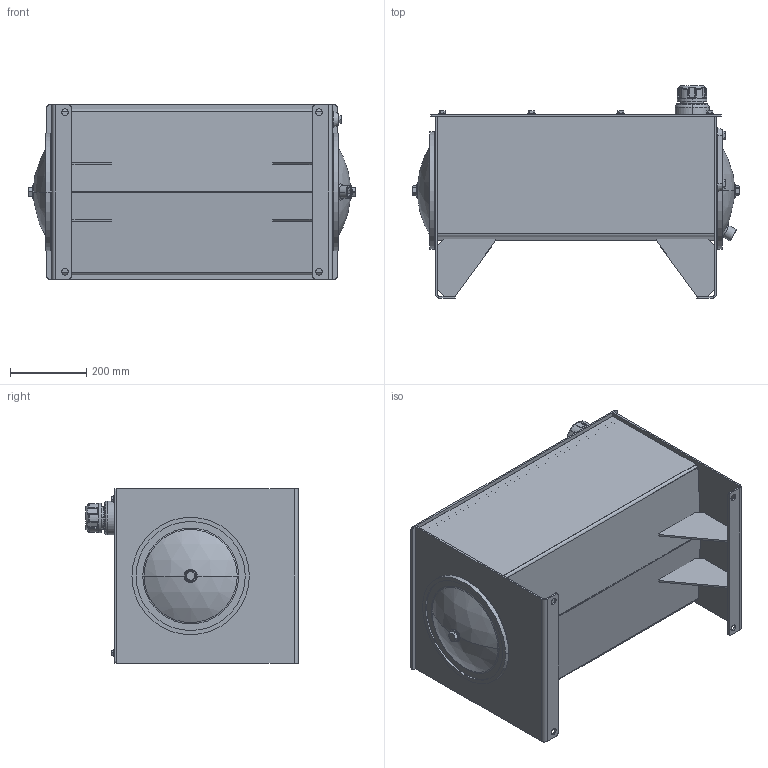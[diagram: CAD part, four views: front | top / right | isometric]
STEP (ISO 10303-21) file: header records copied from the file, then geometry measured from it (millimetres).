
FILE_DESCRIPTION (( 'STEP AP203' ), '1' );
FILE_NAME ('RJIC020-RT.STEP', '2015-01-08T15:47:16', ( '' ), ( '' ), 'SwSTEP 2.0', 'SolidWorks 2014', '' );
FILE_SCHEMA (( 'CONFIG_CONTROL_DESIGN' ));
Length unit declared in the file: inch
Products named in the file (1): RJIC020-RT
Bounding box: 857.79 x 557.96 x 457.2 mm (x, y, z)
Volume: 8287646.4 mm3; surface area: 4344977.5 mm2
Topology: 42 solids, 42 shells, 999 faces, 2297 edges, 1401 vertices
Faces by surface type: plane 360, cylinder 348, torus 108, cone 100, bspline 51, sphere 32
Entity records: 31306 total; most frequent: CARTESIAN_POINT 8152, DIRECTION 5120, ORIENTED_EDGE 4570, EDGE_CURVE 2285, AXIS2_PLACEMENT_3D 2039, VERTEX_POINT 1401, EDGE_LOOP 1156, CIRCLE 1090
